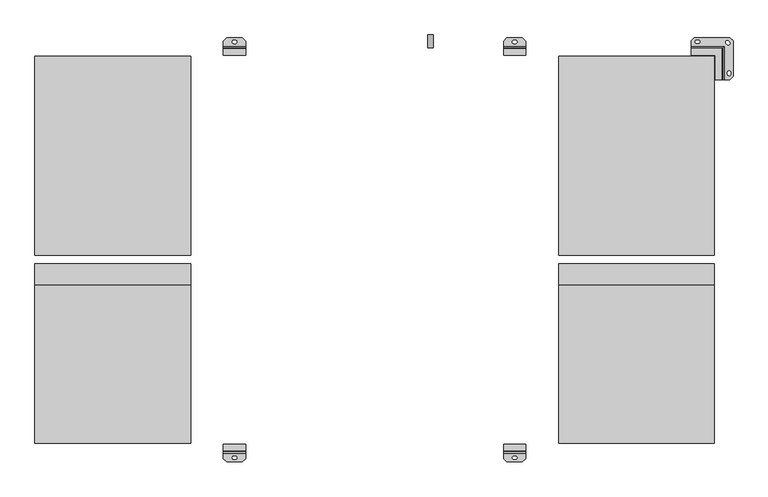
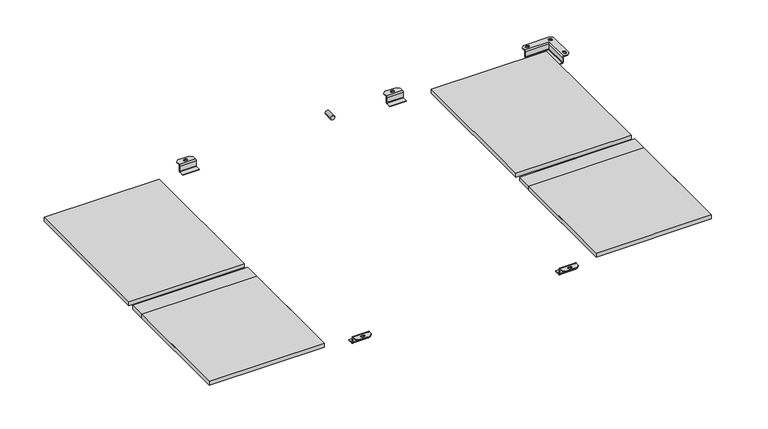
"""IFC4 building model written with IfcOpenShell, lengths in millimetres: proxy geometry, EMC_VEN_CLEVA 2.0_Right_V2 : CLEVA 3000 2.0 Right."""

from ifc_helpers import new_model, si_unit, point, frame, frame_2d, origin, origin_with_axes, place, context, project, spatial, polyline, circle_curve, ellipse_curve, trimmed, segment, composite_curve, outline, extrude, source, transform, mapped, element, save
from ifc_brep_helpers import plane_surface, cylinder_surface, revolved_surface, advanced_brep


def mechanical_equipment_862caaf2(model_context):
    return source(origin(), model_context, "Body", "SolidModel", [
        extrude(outline(polyline([(660.0, -694.0), (660.0, -127.0), (1219.0, -127.0), (1219.0, -694.0), (660.0, -694.0)])), origin_with_axes(), (0.0, 0.0, 1.0), 20.0),
        extrude(outline(polyline([(-660.0, -694.0), (-1219.0, -694.0), (-1219.0, -127.0), (-660.0, -127.0), (-660.0, -694.0)])), origin_with_axes(), (0.0, 0.0, 1.0), 20.0),
        extrude(outline(polyline([(660.0, 694.0), (1219.0, 694.0), (1219.0, -20.0), (660.0, -20.0), (660.0, 694.0)])), origin_with_axes(), (0.0, 0.0, 1.0), 20.0),
        extrude(outline(polyline([(-660.0, 694.0), (-660.0, -20.0), (-1219.0, -20.0), (-1219.0, 694.0), (-660.0, 694.0)])), origin_with_axes(), (0.0, 0.0, 1.0), 20.0),
        extrude(outline(polyline([(660.0, -694.0), (660.0, -50.0), (1219.0, -50.0), (1219.0, -694.0), (660.0, -694.0)])), origin_with_axes(), (0.0, 0.0, 1.0), 20.0),
        extrude(outline(polyline([(-660.0, -694.0), (-1219.0, -694.0), (-1219.0, -50.0), (-660.0, -50.0), (-660.0, -694.0)])), origin_with_axes(), (0.0, 0.0, 1.0), 20.0),
        extrude(outline(composite_curve([segment(trimmed(circle_curve(frame_2d((15.0, 200.0)), 10.0), [point((15.0, 210.0))], [point((15.0, 190.0))], False, "CARTESIAN"), True, "CONTINUOUS"), segment(trimmed(circle_curve(frame_2d((15.0, 200.0)), 10.0), [point((15.0, 190.0))], [point((15.0, 210.0))], False, "CARTESIAN"), True, "CONTINUOUS")], self_intersect=False)), frame((0.0, 725.0, 0.0), z_axis=(0.0, 1.0, 0.0), x_axis=(0.0, 0.0, 1.0)), (0.0, 0.0, 1.0), 46.0),
        advanced_brep(
        [(-542.4199372, 730.9879885, 32.4276212), (-542.4199372, 749.0000028, 32.4276212), (-542.4199372, 749.0000028, 29.4276272), (-542.4199372, 730.9939883, 29.4276272), (-542.4199372, 727.999994, 26.4336329), (-542.4199372, 727.999994, 2.850007), (-542.4199372, 721.9879811, -3.149981), (-542.4199372, 698.0023908, -3.149981), (-542.4199372, 698.0023908, -0.149987), (-542.4199372, 722.9960038, -0.149987), (-542.4199372, 725.0, 1.8540092), (-542.4199372, 725.0, 26.4156337), (-462.4199448, 730.9939883, 29.4276272), (-462.4199448, 749.0000028, 29.4276272), (-462.4199448, 749.0000028, 32.4276212), (-462.4199448, 730.9879885, 32.4276212), (-462.4199448, 725.0, 26.4156337), (-462.4199448, 725.0, 1.8540092), (-462.4199448, 722.9960038, -0.149987), (-462.4199448, 698.0023908, -0.149987), (-462.4199448, 698.0023908, -3.149981), (-462.4199448, 721.9879811, -3.149981), (-462.4199448, 727.9999806, 2.850007), (-462.4199448, 727.999994, 26.4336329), (-530.2699488, 761.1499912, 29.4276272), (-530.2699488, 761.1499912, 32.4276212), (-474.5699332, 761.1499912, 32.4276212), (-474.5699332, 761.1499912, 29.4276272), (-504.919936, 740.0000088, 32.4276212), (-504.9079365, 751.9999968, 32.4276212), (-499.9079465, 751.9999968, 32.4276212), (-499.919946, 740.0000088, 32.4276212), (-499.919946, 740.0000088, 29.4276272), (-499.9079465, 751.9999968, 29.4276272), (-504.9079365, 751.9999968, 29.4276272), (-504.919936, 740.0000088, 29.4276272)],
        [
            (0, 1),
            (1, 2),
            (2, 3),
            (3, 4, circle_curve(frame((-542.4199372, 730.999988, 26.4276332), z_axis=(1.0, 0.0, 0.0), x_axis=(0.0, -1.0, 0.0)), 3.0)),
            (4, 5),
            (5, 6, circle_curve(frame((-542.4199372, 721.9999806, 2.850007), z_axis=(-1.0, 0.0, 0.0), x_axis=(0.0, -1.0, 0.0)), 6.0)),
            (6, 7),
            (7, 8),
            (8, 9),
            (9, 10, circle_curve(frame((-542.4199372, 723.000004, 1.850009), z_axis=(1.0, 0.0, 0.0), x_axis=(0.0, -1.0, 0.0)), 2.0)),
            (10, 11),
            (11, 0, circle_curve(frame((-542.4199372, 730.999988, 26.4276332), z_axis=(-1.0, 0.0, 0.0), x_axis=(0.0, -1.0, 0.0)), 6.0)),
            (12, 13),
            (13, 14),
            (14, 15),
            (15, 16, circle_curve(frame((-462.4199448, 730.999988, 26.4276332), z_axis=(1.0, 0.0, 0.0), x_axis=(0.0, -1.0, 0.0)), 6.0)),
            (16, 17),
            (17, 18, circle_curve(frame((-462.4199448, 723.000004, 1.850009), z_axis=(-1.0, 0.0, 0.0), x_axis=(0.0, -1.0, 0.0)), 2.0)),
            (18, 19),
            (19, 20),
            (20, 21),
            (21, 22, circle_curve(frame((-462.4199448, 721.9999806, 2.850007), z_axis=(1.0, 0.0, 0.0), x_axis=(0.0, -1.0, 0.0)), 6.0)),
            (22, 23),
            (23, 12, circle_curve(frame((-462.4199448, 730.999988, 26.4276332), z_axis=(-1.0, 0.0, 0.0), x_axis=(0.0, -1.0, 0.0)), 3.0)),
            (24, 25),
            (25, 26),
            (26, 27),
            (27, 24),
            (14, 26),
            (25, 1),
            (0, 15),
            (28, 29, circle_curve(frame((-504.919936, 746.0000088, 32.4276212), z_axis=(0.0, 0.0, -1.0), x_axis=(1.0, 0.0, 0.0)), 6.0)),
            (29, 30),
            (30, 31, circle_curve(frame((-499.919946, 746.0000088, 32.4276212), z_axis=(0.0, 0.0, -1.0), x_axis=(1.0, 0.0, 0.0)), 6.0)),
            (31, 28),
            (11, 16),
            (10, 17),
            (9, 18),
            (8, 19),
            (7, 20),
            (6, 21),
            (5, 22),
            (4, 23),
            (3, 12),
            (2, 24),
            (27, 13),
            (32, 33, circle_curve(frame((-499.919946, 746.0000088, 29.4276272), z_axis=(0.0, 0.0, 1.0), x_axis=(1.0, 0.0, 0.0)), 6.0)),
            (33, 34),
            (34, 35, circle_curve(frame((-504.919936, 746.0000088, 29.4276272), z_axis=(0.0, 0.0, 1.0), x_axis=(1.0, 0.0, 0.0)), 6.0)),
            (35, 32),
            (35, 28),
            (31, 32),
            (34, 29),
            (33, 30),
        ],
        [
            plane_surface(frame((-542.4199372, 725.0, 0.0), z_axis=(-1.0, 0.0, 0.0), x_axis=(0.0, 0.0, 1.0))),
            plane_surface(frame((-462.4199448, 725.0, 0.0), z_axis=(1.0, 0.0, 0.0), x_axis=(0.0, 0.0, 1.0))),
            plane_surface(frame((-542.4199372, 761.1499912, 29.4276272), z_axis=(0.0, 1.0, 0.0), x_axis=(1.0, 0.0, 0.0))),
            plane_surface(frame((-542.4199372, 761.1499912, 32.4276212), z_axis=(0.0, 0.0, 1.0), x_axis=(1.0, 0.0, 0.0))),
            cylinder_surface(frame((-542.4199372, 730.999988, 26.4276332), z_axis=(-1.0, 0.0, 0.0), x_axis=(0.0, -1.0, 0.0)), 6.0),
            plane_surface(frame((-542.4199372, 725.0, 26.4156337), z_axis=(0.0, -1.0, 0.0), x_axis=(1.0, 0.0, 0.0))),
            revolved_surface(polyline([(-462.4199448, 721.000004, 1.850009), (-542.4199372, 721.000004, 1.850009)]), (-542.4199372, 723.000004, 1.850009), (1.0, 0.0, 0.0)),
            plane_surface(frame((-542.4199372, 722.9960038, -0.149987), z_axis=(0.0, 0.0, 1.0), x_axis=(1.0, 0.0, 0.0))),
            plane_surface(frame((-542.4199372, 698.0023908, -0.149987), z_axis=(0.0, -1.0, 0.0), x_axis=(1.0, 0.0, 0.0))),
            plane_surface(frame((-542.4199372, 698.0023908, -3.149981), z_axis=(0.0, 0.0, -1.0), x_axis=(1.0, 0.0, 0.0))),
            cylinder_surface(frame((-542.4199372, 721.9999806, 2.850007), z_axis=(-1.0, 0.0, 0.0), x_axis=(0.0, -1.0, 0.0)), 6.0),
            plane_surface(frame((-542.4199372, 727.999994, 2.850007), z_axis=(0.0, 1.0, 0.0), x_axis=(1.0, 0.0, 0.0))),
            revolved_surface(polyline([(-462.4199448, 727.999988, 26.4276332), (-542.4199372, 727.999988, 26.4276332)]), (-542.4199372, 730.999988, 26.4276332), (1.0, 0.0, 0.0)),
            plane_surface(frame((-542.4199372, 730.9939883, 29.4276272), z_axis=(0.0, 0.0, -1.0), x_axis=(1.0, 0.0, 0.0))),
            plane_surface(frame((-499.919946, 739.9999954, 250.0), z_axis=(0.0, 1.0, 0.0), x_axis=(0.0, 0.0, -1.0))),
            revolved_surface(polyline([(-498.919936, 746.0000088, 32.4276212), (-498.919936, 746.0000088, 29.4276272)]), (-504.919936, 746.0000088, 0.0), (0.0, 0.0, 1.0)),
            plane_surface(frame((-504.9079365, 751.9999968, 250.0), z_axis=(0.0, -1.0, 0.0), x_axis=(0.0, 0.0, -1.0))),
            revolved_surface(polyline([(-493.919946, 746.0000088, 32.4276212), (-493.919946, 746.0000088, 29.4276272)]), (-499.919946, 746.0000088, 0.0), (0.0, 0.0, 1.0)),
            plane_surface(frame((-530.2699488, 761.1499912, 250.0), z_axis=(-0.7071067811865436, 0.7071067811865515, 0.0), x_axis=(0.0, 0.0, -1.0))),
            plane_surface(frame((-456.4580002, 743.0380582, 250.0), z_axis=(0.7071067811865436, 0.7071067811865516, 0.0), x_axis=(0.0, 0.0, -1.0))),
        ],
        [
            (0, [[1, 2, 3, 4, 5, 6, 7, 8, 9, 10, 11, 12]]),
            (1, [[13, 14, 15, 16, 17, 18, 19, 20, 21, 22, 23, 24]]),
            (2, [[25, 26, 27, 28]]),
            (3, [[-15, 29, -26, 30, -1, 31], [32, 33, 34, 35]]),
            (4, [[36, -16, -31, -12]]),
            (5, [[37, -17, -36, -11]]),
            (6, [[38, -18, -37, -10]]),
            (7, [[39, -19, -38, -9]]),
            (8, [[40, -20, -39, -8]]),
            (9, [[41, -21, -40, -7]]),
            (10, [[42, -22, -41, -6]]),
            (11, [[43, -23, -42, -5]]),
            (12, [[44, -24, -43, -4]]),
            (13, [[-3, 45, -28, 46, -13, -44], [47, 48, 49, 50]]),
            (14, [[-50, 51, -35, 52]]),
            (15, [[-49, 53, -32, -51]]),
            (16, [[-48, 54, -33, -53]]),
            (17, [[-34, -54, -47, -52]]),
            (18, [[-30, -25, -45, -2]]),
            (19, [[-46, -27, -29, -14]]),
        ],
    ),
        advanced_brep(
        [(462.5800628, 730.9879885, 32.4276212), (462.5800628, 749.0000028, 32.4276212), (462.5800628, 749.0000028, 29.4276272), (462.5800628, 730.9939883, 29.4276272), (462.5800628, 727.999994, 26.4336329), (462.5800628, 727.999994, 2.850007), (462.5800628, 721.9879811, -3.149981), (462.5800628, 698.0023908, -3.149981), (462.5800628, 698.0023908, -0.149987), (462.5800628, 722.9960038, -0.149987), (462.5800628, 725.0, 1.8540092), (462.5800628, 725.0, 26.4156337), (542.5800552, 730.9939883, 29.4276272), (542.5800552, 749.0000028, 29.4276272), (542.5800552, 749.0000028, 32.4276212), (542.5800552, 730.9879885, 32.4276212), (542.5800552, 725.0, 26.4156337), (542.5800552, 725.0, 1.8540092), (542.5800552, 722.9960038, -0.149987), (542.5800552, 698.0023908, -0.149987), (542.5800552, 698.0023908, -3.149981), (542.5800552, 721.9879811, -3.149981), (542.5800552, 727.9999806, 2.850007), (542.5800552, 727.999994, 26.4336329), (474.7300512, 761.1499912, 29.4276272), (474.7300512, 761.1499912, 32.4276212), (530.4300668, 761.1499912, 32.4276212), (530.4300668, 761.1499912, 29.4276272), (500.080064, 740.0000088, 32.4276212), (500.0920635, 751.9999968, 32.4276212), (505.0920535, 751.9999968, 32.4276212), (505.080054, 740.0000088, 32.4276212), (505.080054, 740.0000088, 29.4276272), (505.0920535, 751.9999968, 29.4276272), (500.0920635, 751.9999968, 29.4276272), (500.080064, 740.0000088, 29.4276272)],
        [
            (0, 1),
            (1, 2),
            (2, 3),
            (3, 4, circle_curve(frame((462.5800628, 730.999988, 26.4276332), z_axis=(1.0, 0.0, 0.0), x_axis=(0.0, -1.0, 0.0)), 3.0)),
            (4, 5),
            (5, 6, circle_curve(frame((462.5800628, 721.9999806, 2.850007), z_axis=(-1.0, 0.0, 0.0), x_axis=(0.0, -1.0, 0.0)), 6.0)),
            (6, 7),
            (7, 8),
            (8, 9),
            (9, 10, circle_curve(frame((462.5800628, 723.000004, 1.850009), z_axis=(1.0, 0.0, 0.0), x_axis=(0.0, -1.0, 0.0)), 2.0)),
            (10, 11),
            (11, 0, circle_curve(frame((462.5800628, 730.999988, 26.4276332), z_axis=(-1.0, 0.0, 0.0), x_axis=(0.0, -1.0, 0.0)), 6.0)),
            (12, 13),
            (13, 14),
            (14, 15),
            (15, 16, circle_curve(frame((542.5800552, 730.999988, 26.4276332), z_axis=(1.0, 0.0, 0.0), x_axis=(0.0, -1.0, 0.0)), 6.0)),
            (16, 17),
            (17, 18, circle_curve(frame((542.5800552, 723.000004, 1.850009), z_axis=(-1.0, 0.0, 0.0), x_axis=(0.0, -1.0, 0.0)), 2.0)),
            (18, 19),
            (19, 20),
            (20, 21),
            (21, 22, circle_curve(frame((542.5800552, 721.9999806, 2.850007), z_axis=(1.0, 0.0, 0.0), x_axis=(0.0, -1.0, 0.0)), 6.0)),
            (22, 23),
            (23, 12, circle_curve(frame((542.5800552, 730.999988, 26.4276332), z_axis=(-1.0, 0.0, 0.0), x_axis=(0.0, -1.0, 0.0)), 3.0)),
            (24, 25),
            (25, 26),
            (26, 27),
            (27, 24),
            (14, 26),
            (25, 1),
            (0, 15),
            (28, 29, circle_curve(frame((500.080064, 746.0000088, 32.4276212), z_axis=(0.0, 0.0, -1.0), x_axis=(1.0, 0.0, 0.0)), 6.0)),
            (29, 30),
            (30, 31, circle_curve(frame((505.080054, 746.0000088, 32.4276212), z_axis=(0.0, 0.0, -1.0), x_axis=(1.0, 0.0, 0.0)), 6.0)),
            (31, 28),
            (11, 16),
            (10, 17),
            (9, 18),
            (8, 19),
            (7, 20),
            (6, 21),
            (5, 22),
            (4, 23),
            (3, 12),
            (2, 24),
            (27, 13),
            (32, 33, circle_curve(frame((505.080054, 746.0000088, 29.4276272), z_axis=(0.0, 0.0, 1.0), x_axis=(1.0, 0.0, 0.0)), 6.0)),
            (33, 34),
            (34, 35, circle_curve(frame((500.080064, 746.0000088, 29.4276272), z_axis=(0.0, 0.0, 1.0), x_axis=(1.0, 0.0, 0.0)), 6.0)),
            (35, 32),
            (35, 28),
            (31, 32),
            (34, 29),
            (33, 30),
        ],
        [
            plane_surface(frame((462.5800628, 725.0, 0.0), z_axis=(-1.0, 0.0, 0.0), x_axis=(0.0, 0.0, 1.0))),
            plane_surface(frame((542.5800552, 725.0, 0.0), z_axis=(1.0, 0.0, 0.0), x_axis=(0.0, 0.0, 1.0))),
            plane_surface(frame((462.5800628, 761.1499912, 29.4276272), z_axis=(0.0, 1.0, 0.0), x_axis=(1.0, 0.0, 0.0))),
            plane_surface(frame((462.5800628, 761.1499912, 32.4276212), z_axis=(0.0, 0.0, 1.0), x_axis=(1.0, 0.0, 0.0))),
            cylinder_surface(frame((462.5800628, 730.999988, 26.4276332), z_axis=(-1.0, 0.0, 0.0), x_axis=(0.0, -1.0, 0.0)), 6.0),
            plane_surface(frame((462.5800628, 725.0, 26.4156337), z_axis=(0.0, -1.0, 0.0), x_axis=(1.0, 0.0, 0.0))),
            revolved_surface(polyline([(542.5800552, 721.000004, 1.850009), (462.5800628, 721.000004, 1.850009)]), (462.5800628, 723.000004, 1.850009), (1.0, 0.0, 0.0)),
            plane_surface(frame((462.5800628, 722.9960038, -0.149987), z_axis=(0.0, 0.0, 1.0), x_axis=(1.0, 0.0, 0.0))),
            plane_surface(frame((462.5800628, 698.0023908, -0.149987), z_axis=(0.0, -1.0, 0.0), x_axis=(1.0, 0.0, 0.0))),
            plane_surface(frame((462.5800628, 698.0023908, -3.149981), z_axis=(0.0, 0.0, -1.0), x_axis=(1.0, 0.0, 0.0))),
            cylinder_surface(frame((462.5800628, 721.9999806, 2.850007), z_axis=(-1.0, 0.0, 0.0), x_axis=(0.0, -1.0, 0.0)), 6.0),
            plane_surface(frame((462.5800628, 727.999994, 2.850007), z_axis=(0.0, 1.0, 0.0), x_axis=(1.0, 0.0, 0.0))),
            revolved_surface(polyline([(542.5800552, 727.999988, 26.4276332), (462.5800628, 727.999988, 26.4276332)]), (462.5800628, 730.999988, 26.4276332), (1.0, 0.0, 0.0)),
            plane_surface(frame((462.5800628, 730.9939883, 29.4276272), z_axis=(0.0, 0.0, -1.0), x_axis=(1.0, 0.0, 0.0))),
            plane_surface(frame((505.080054, 739.9999954, 250.0), z_axis=(0.0, 1.0, 0.0), x_axis=(0.0, 0.0, -1.0))),
            revolved_surface(polyline([(506.080064, 746.0000088, 32.4276212), (506.080064, 746.0000088, 29.4276272)]), (500.080064, 746.0000088, 0.0), (0.0, 0.0, 1.0)),
            plane_surface(frame((500.0920635, 751.9999968, 250.0), z_axis=(0.0, -1.0, 0.0), x_axis=(0.0, 0.0, -1.0))),
            revolved_surface(polyline([(511.080054, 746.0000088, 32.4276212), (511.080054, 746.0000088, 29.4276272)]), (505.080054, 746.0000088, 0.0), (0.0, 0.0, 1.0)),
            plane_surface(frame((474.7300512, 761.1499912, 250.0), z_axis=(-0.7071067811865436, 0.7071067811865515, 0.0), x_axis=(0.0, 0.0, -1.0))),
            plane_surface(frame((548.5419998, 743.0380582, 250.0), z_axis=(0.7071067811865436, 0.7071067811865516, 0.0), x_axis=(0.0, 0.0, -1.0))),
        ],
        [
            (0, [[1, 2, 3, 4, 5, 6, 7, 8, 9, 10, 11, 12]]),
            (1, [[13, 14, 15, 16, 17, 18, 19, 20, 21, 22, 23, 24]]),
            (2, [[25, 26, 27, 28]]),
            (3, [[-15, 29, -26, 30, -1, 31], [32, 33, 34, 35]]),
            (4, [[36, -16, -31, -12]]),
            (5, [[37, -17, -36, -11]]),
            (6, [[38, -18, -37, -10]]),
            (7, [[39, -19, -38, -9]]),
            (8, [[40, -20, -39, -8]]),
            (9, [[41, -21, -40, -7]]),
            (10, [[42, -22, -41, -6]]),
            (11, [[43, -23, -42, -5]]),
            (12, [[44, -24, -43, -4]]),
            (13, [[-3, 45, -28, 46, -13, -44], [47, 48, 49, 50]]),
            (14, [[-50, 51, -35, 52]]),
            (15, [[-49, 53, -32, -51]]),
            (16, [[-48, 54, -33, -53]]),
            (17, [[-34, -54, -47, -52]]),
            (18, [[-30, -25, -45, -2]]),
            (19, [[-46, -27, -29, -14]]),
        ],
    ),
        advanced_brep(
        [(-542.4199372, -730.9879885, 32.4276212), (-542.4199372, -725.0, 26.4156337), (-542.4199372, -725.0, 1.8540092), (-542.4199372, -722.9960038, -0.149987), (-542.4199372, -698.0023908, -0.149987), (-542.4199372, -698.0023908, -3.149981), (-542.4199372, -721.9879811, -3.149981), (-542.4199372, -727.9999806, 2.850007), (-542.4199372, -727.999994, 26.4336329), (-542.4199372, -730.9939883, 29.4276272), (-542.4199372, -749.0000028, 29.4276272), (-542.4199372, -749.0000028, 32.4276212), (-462.4199448, -730.9939883, 29.4276272), (-462.4199448, -727.999994, 26.4336329), (-462.4199448, -727.999994, 2.850007), (-462.4199448, -721.9879811, -3.149981), (-462.4199448, -698.0023908, -3.149981), (-462.4199448, -698.0023908, -0.149987), (-462.4199448, -722.9960038, -0.149987), (-462.4199448, -725.0, 1.8540092), (-462.4199448, -725.0, 26.4156337), (-462.4199448, -730.9879885, 32.4276212), (-462.4199448, -749.0000028, 32.4276212), (-462.4199448, -749.0000028, 29.4276272), (-530.2699488, -761.1499912, 29.4276272), (-474.5699332, -761.1499912, 29.4276272), (-474.5699332, -761.1499912, 32.4276212), (-530.2699488, -761.1499912, 32.4276212), (-504.919936, -739.9999954, 32.4276212), (-499.919946, -739.9999954, 32.4276212), (-499.9079465, -751.9999968, 32.4276212), (-504.9079365, -751.9999968, 32.4276212), (-499.919946, -739.9999954, 29.4276272), (-504.919936, -739.9999954, 29.4276272), (-504.9079365, -751.9999968, 29.4276272), (-499.9079465, -751.9999968, 29.4276272)],
        [
            (0, 1, circle_curve(frame((-542.4199372, -730.999988, 26.4276332), z_axis=(-1.0, 0.0, 0.0), x_axis=(0.0, 1.0, 0.0)), 6.0)),
            (1, 2),
            (2, 3, circle_curve(frame((-542.4199372, -723.000004, 1.850009), z_axis=(1.0, 0.0, 0.0), x_axis=(0.0, 1.0, 0.0)), 2.0)),
            (3, 4),
            (4, 5),
            (5, 6),
            (6, 7, circle_curve(frame((-542.4199372, -721.9999806, 2.850007), z_axis=(-1.0, 0.0, 0.0), x_axis=(0.0, 1.0, 0.0)), 6.0)),
            (7, 8),
            (8, 9, circle_curve(frame((-542.4199372, -730.999988, 26.4276332), z_axis=(1.0, 0.0, 0.0), x_axis=(0.0, 1.0, 0.0)), 3.0)),
            (9, 10),
            (10, 11),
            (11, 0),
            (12, 13, circle_curve(frame((-462.4199448, -730.999988, 26.4276332), z_axis=(-1.0, 0.0, 0.0), x_axis=(0.0, 1.0, 0.0)), 3.0)),
            (13, 14),
            (14, 15, circle_curve(frame((-462.4199448, -721.9999806, 2.850007), z_axis=(1.0, 0.0, 0.0), x_axis=(0.0, 1.0, 0.0)), 6.0)),
            (15, 16),
            (16, 17),
            (17, 18),
            (18, 19, circle_curve(frame((-462.4199448, -723.000004, 1.850009), z_axis=(-1.0, 0.0, 0.0), x_axis=(0.0, 1.0, 0.0)), 2.0)),
            (19, 20),
            (20, 21, circle_curve(frame((-462.4199448, -730.999988, 26.4276332), z_axis=(1.0, 0.0, 0.0), x_axis=(0.0, 1.0, 0.0)), 6.0)),
            (21, 22),
            (22, 23),
            (23, 12),
            (24, 25),
            (25, 26),
            (26, 27),
            (27, 24),
            (21, 0),
            (11, 27),
            (26, 22),
            (28, 29),
            (29, 30, circle_curve(frame((-499.919946, -746.0000088, 32.4276212), z_axis=(0.0, 0.0, -1.0), x_axis=(1.0, 0.0, 0.0)), 6.0)),
            (30, 31),
            (31, 28, circle_curve(frame((-504.919936, -746.0000088, 32.4276212), z_axis=(0.0, 0.0, -1.0), x_axis=(1.0, 0.0, 0.0)), 6.0)),
            (20, 1),
            (19, 2),
            (18, 3),
            (17, 4),
            (16, 5),
            (15, 6),
            (14, 7),
            (13, 8),
            (12, 9),
            (23, 25),
            (24, 10),
            (32, 33),
            (33, 34, circle_curve(frame((-504.919936, -746.0000088, 29.4276272), z_axis=(0.0, 0.0, 1.0), x_axis=(1.0, 0.0, 0.0)), 6.0)),
            (34, 35),
            (35, 32, circle_curve(frame((-499.919946, -746.0000088, 29.4276272), z_axis=(0.0, 0.0, 1.0), x_axis=(1.0, 0.0, 0.0)), 6.0)),
            (32, 29),
            (28, 33),
            (31, 34),
            (30, 35),
        ],
        [
            plane_surface(frame((-542.4199372, -725.0, 0.0), z_axis=(-1.0, 0.0, 0.0), x_axis=(0.0, 0.0, 1.0))),
            plane_surface(frame((-462.4199448, -725.0, 0.0), z_axis=(1.0, 0.0, 0.0), x_axis=(0.0, 0.0, 1.0))),
            plane_surface(frame((-542.4199372, -761.1499912, 29.4276272), z_axis=(0.0, -1.0, 0.0), x_axis=(1.0, 0.0, 0.0))),
            plane_surface(frame((-542.4199372, -761.1499912, 32.4276212), z_axis=(0.0, 0.0, 1.0), x_axis=(1.0, 0.0, 0.0))),
            cylinder_surface(frame((-542.4199372, -730.999988, 26.4276332), z_axis=(-1.0, 0.0, 0.0), x_axis=(0.0, 1.0, 0.0)), 6.0),
            plane_surface(frame((-542.4199372, -725.0, 26.4156337), z_axis=(0.0, 1.0, 0.0), x_axis=(1.0, 0.0, 0.0))),
            revolved_surface(polyline([(-462.4199448, -721.000004, 1.850009), (-542.4199372, -721.000004, 1.850009)]), (-542.4199372, -723.000004, 1.850009), (1.0, 0.0, 0.0)),
            plane_surface(frame((-542.4199372, -722.9960038, -0.149987), z_axis=(0.0, 0.0, 1.0), x_axis=(1.0, 0.0, 0.0))),
            plane_surface(frame((-542.4199372, -698.0023908, -0.149987), z_axis=(0.0, 1.0, 0.0), x_axis=(1.0, 0.0, 0.0))),
            plane_surface(frame((-542.4199372, -698.0023908, -3.149981), z_axis=(0.0, 0.0, -1.0), x_axis=(1.0, 0.0, 0.0))),
            cylinder_surface(frame((-542.4199372, -721.9999806, 2.850007), z_axis=(-1.0, 0.0, 0.0), x_axis=(0.0, 1.0, 0.0)), 6.0),
            plane_surface(frame((-542.4199372, -727.999994, 2.850007), z_axis=(0.0, -1.0, 0.0), x_axis=(1.0, 0.0, 0.0))),
            revolved_surface(polyline([(-462.4199448, -727.999988, 26.4276332), (-542.4199372, -727.999988, 26.4276332)]), (-542.4199372, -730.999988, 26.4276332), (1.0, 0.0, 0.0)),
            plane_surface(frame((-542.4199372, -730.9939883, 29.4276272), z_axis=(0.0, 0.0, -1.0), x_axis=(1.0, 0.0, 0.0))),
            plane_surface(frame((-499.919946, -739.9999954, 250.0), z_axis=(0.0, -1.0, 0.0), x_axis=(0.0, 0.0, -1.0))),
            revolved_surface(polyline([(-498.919936, -746.0000088, 32.4276212), (-498.919936, -746.0000088, 29.4276272)]), (-504.919936, -746.0000088, 0.0), (0.0, 0.0, 1.0)),
            plane_surface(frame((-504.9079365, -751.9999968, 250.0), z_axis=(0.0, 1.0, 0.0), x_axis=(0.0, 0.0, -1.0))),
            revolved_surface(polyline([(-493.919946, -746.0000088, 32.4276212), (-493.919946, -746.0000088, 29.4276272)]), (-499.919946, -746.0000088, 0.0), (0.0, 0.0, 1.0)),
            plane_surface(frame((-530.2699488, -761.1499912, 250.0), z_axis=(-0.7071067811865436, -0.7071067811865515, 0.0), x_axis=(0.0, 0.0, -1.0))),
            plane_surface(frame((-456.4580002, -743.0380582, 250.0), z_axis=(0.7071067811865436, -0.7071067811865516, 0.0), x_axis=(0.0, 0.0, -1.0))),
        ],
        [
            (0, [[1, 2, 3, 4, 5, 6, 7, 8, 9, 10, 11, 12]]),
            (1, [[13, 14, 15, 16, 17, 18, 19, 20, 21, 22, 23, 24]]),
            (2, [[25, 26, 27, 28]]),
            (3, [[29, -12, 30, -27, 31, -22], [32, 33, 34, 35]]),
            (4, [[-1, -29, -21, 36]]),
            (5, [[-2, -36, -20, 37]]),
            (6, [[-3, -37, -19, 38]]),
            (7, [[-4, -38, -18, 39]]),
            (8, [[-5, -39, -17, 40]]),
            (9, [[-6, -40, -16, 41]]),
            (10, [[-7, -41, -15, 42]]),
            (11, [[-8, -42, -14, 43]]),
            (12, [[-9, -43, -13, 44]]),
            (13, [[-44, -24, 45, -25, 46, -10], [47, 48, 49, 50]]),
            (14, [[51, -32, 52, -47]]),
            (15, [[-52, -35, 53, -48]]),
            (16, [[-53, -34, 54, -49]]),
            (17, [[-51, -50, -54, -33]]),
            (18, [[-11, -46, -28, -30]]),
            (19, [[-23, -31, -26, -45]]),
        ],
    ),
        advanced_brep(
        [(462.5800628, -730.9879885, 32.4276212), (462.5800628, -725.0, 26.4156337), (462.5800628, -725.0, 1.8540092), (462.5800628, -722.9960038, -0.149987), (462.5800628, -698.0023908, -0.149987), (462.5800628, -698.0023908, -3.149981), (462.5800628, -721.9879811, -3.149981), (462.5800628, -727.9999806, 2.850007), (462.5800628, -727.999994, 26.4336329), (462.5800628, -730.9939883, 29.4276272), (462.5800628, -749.0000028, 29.4276272), (462.5800628, -749.0000028, 32.4276212), (542.5800552, -730.9939883, 29.4276272), (542.5800552, -727.999994, 26.4336329), (542.5800552, -727.999994, 2.850007), (542.5800552, -721.9879811, -3.149981), (542.5800552, -698.0023908, -3.149981), (542.5800552, -698.0023908, -0.149987), (542.5800552, -722.9960038, -0.149987), (542.5800552, -725.0, 1.8540092), (542.5800552, -725.0, 26.4156337), (542.5800552, -730.9879885, 32.4276212), (542.5800552, -749.0000028, 32.4276212), (542.5800552, -749.0000028, 29.4276272), (474.7300512, -761.1499912, 29.4276272), (530.4300668, -761.1499912, 29.4276272), (530.4300668, -761.1499912, 32.4276212), (474.7300512, -761.1499912, 32.4276212), (500.080064, -739.9999954, 32.4276212), (505.080054, -739.9999954, 32.4276212), (505.0920535, -751.9999968, 32.4276212), (500.0920635, -751.9999968, 32.4276212), (505.080054, -739.9999954, 29.4276272), (500.080064, -739.9999954, 29.4276272), (500.0920635, -751.9999968, 29.4276272), (505.0920535, -751.9999968, 29.4276272)],
        [
            (0, 1, circle_curve(frame((462.5800628, -730.999988, 26.4276332), z_axis=(-1.0, 0.0, 0.0), x_axis=(0.0, 1.0, 0.0)), 6.0)),
            (1, 2),
            (2, 3, circle_curve(frame((462.5800628, -723.000004, 1.850009), z_axis=(1.0, 0.0, 0.0), x_axis=(0.0, 1.0, 0.0)), 2.0)),
            (3, 4),
            (4, 5),
            (5, 6),
            (6, 7, circle_curve(frame((462.5800628, -721.9999806, 2.850007), z_axis=(-1.0, 0.0, 0.0), x_axis=(0.0, 1.0, 0.0)), 6.0)),
            (7, 8),
            (8, 9, circle_curve(frame((462.5800628, -730.999988, 26.4276332), z_axis=(1.0, 0.0, 0.0), x_axis=(0.0, 1.0, 0.0)), 3.0)),
            (9, 10),
            (10, 11),
            (11, 0),
            (12, 13, circle_curve(frame((542.5800552, -730.999988, 26.4276332), z_axis=(-1.0, 0.0, 0.0), x_axis=(0.0, 1.0, 0.0)), 3.0)),
            (13, 14),
            (14, 15, circle_curve(frame((542.5800552, -721.9999806, 2.850007), z_axis=(1.0, 0.0, 0.0), x_axis=(0.0, 1.0, 0.0)), 6.0)),
            (15, 16),
            (16, 17),
            (17, 18),
            (18, 19, circle_curve(frame((542.5800552, -723.000004, 1.850009), z_axis=(-1.0, 0.0, 0.0), x_axis=(0.0, 1.0, 0.0)), 2.0)),
            (19, 20),
            (20, 21, circle_curve(frame((542.5800552, -730.999988, 26.4276332), z_axis=(1.0, 0.0, 0.0), x_axis=(0.0, 1.0, 0.0)), 6.0)),
            (21, 22),
            (22, 23),
            (23, 12),
            (24, 25),
            (25, 26),
            (26, 27),
            (27, 24),
            (21, 0),
            (11, 27),
            (26, 22),
            (28, 29),
            (29, 30, circle_curve(frame((505.080054, -746.0000088, 32.4276212), z_axis=(0.0, 0.0, -1.0), x_axis=(1.0, 0.0, 0.0)), 6.0)),
            (30, 31),
            (31, 28, circle_curve(frame((500.080064, -746.0000088, 32.4276212), z_axis=(0.0, 0.0, -1.0), x_axis=(1.0, 0.0, 0.0)), 6.0)),
            (20, 1),
            (19, 2),
            (18, 3),
            (17, 4),
            (16, 5),
            (15, 6),
            (14, 7),
            (13, 8),
            (12, 9),
            (23, 25),
            (24, 10),
            (32, 33),
            (33, 34, circle_curve(frame((500.080064, -746.0000088, 29.4276272), z_axis=(0.0, 0.0, 1.0), x_axis=(1.0, 0.0, 0.0)), 6.0)),
            (34, 35),
            (35, 32, circle_curve(frame((505.080054, -746.0000088, 29.4276272), z_axis=(0.0, 0.0, 1.0), x_axis=(1.0, 0.0, 0.0)), 6.0)),
            (32, 29),
            (28, 33),
            (31, 34),
            (30, 35),
        ],
        [
            plane_surface(frame((462.5800628, -725.0, 0.0), z_axis=(-1.0, 0.0, 0.0), x_axis=(0.0, 0.0, 1.0))),
            plane_surface(frame((542.5800552, -725.0, 0.0), z_axis=(1.0, 0.0, 0.0), x_axis=(0.0, 0.0, 1.0))),
            plane_surface(frame((462.5800628, -761.1499912, 29.4276272), z_axis=(0.0, -1.0, 0.0), x_axis=(1.0, 0.0, 0.0))),
            plane_surface(frame((462.5800628, -761.1499912, 32.4276212), z_axis=(0.0, 0.0, 1.0), x_axis=(1.0, 0.0, 0.0))),
            cylinder_surface(frame((462.5800628, -730.999988, 26.4276332), z_axis=(-1.0, 0.0, 0.0), x_axis=(0.0, 1.0, 0.0)), 6.0),
            plane_surface(frame((462.5800628, -725.0, 26.4156337), z_axis=(0.0, 1.0, 0.0), x_axis=(1.0, 0.0, 0.0))),
            revolved_surface(polyline([(542.5800552, -721.000004, 1.850009), (462.5800628, -721.000004, 1.850009)]), (462.5800628, -723.000004, 1.850009), (1.0, 0.0, 0.0)),
            plane_surface(frame((462.5800628, -722.9960038, -0.149987), z_axis=(0.0, 0.0, 1.0), x_axis=(1.0, 0.0, 0.0))),
            plane_surface(frame((462.5800628, -698.0023908, -0.149987), z_axis=(0.0, 1.0, 0.0), x_axis=(1.0, 0.0, 0.0))),
            plane_surface(frame((462.5800628, -698.0023908, -3.149981), z_axis=(0.0, 0.0, -1.0), x_axis=(1.0, 0.0, 0.0))),
            cylinder_surface(frame((462.5800628, -721.9999806, 2.850007), z_axis=(-1.0, 0.0, 0.0), x_axis=(0.0, 1.0, 0.0)), 6.0),
            plane_surface(frame((462.5800628, -727.999994, 2.850007), z_axis=(0.0, -1.0, 0.0), x_axis=(1.0, 0.0, 0.0))),
            revolved_surface(polyline([(542.5800552, -727.999988, 26.4276332), (462.5800628, -727.999988, 26.4276332)]), (462.5800628, -730.999988, 26.4276332), (1.0, 0.0, 0.0)),
            plane_surface(frame((462.5800628, -730.9939883, 29.4276272), z_axis=(0.0, 0.0, -1.0), x_axis=(1.0, 0.0, 0.0))),
            plane_surface(frame((505.080054, -739.9999954, 250.0), z_axis=(0.0, -1.0, 0.0), x_axis=(0.0, 0.0, -1.0))),
            revolved_surface(polyline([(506.080064, -746.0000088, 32.4276212), (506.080064, -746.0000088, 29.4276272)]), (500.080064, -746.0000088, 0.0), (0.0, 0.0, 1.0)),
            plane_surface(frame((500.0920635, -751.9999968, 250.0), z_axis=(0.0, 1.0, 0.0), x_axis=(0.0, 0.0, -1.0))),
            revolved_surface(polyline([(511.080054, -746.0000088, 32.4276212), (511.080054, -746.0000088, 29.4276272)]), (505.080054, -746.0000088, 0.0), (0.0, 0.0, 1.0)),
            plane_surface(frame((474.7300512, -761.1499912, 250.0), z_axis=(-0.7071067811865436, -0.7071067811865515, 0.0), x_axis=(0.0, 0.0, -1.0))),
            plane_surface(frame((548.5419998, -743.0380582, 250.0), z_axis=(0.7071067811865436, -0.7071067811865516, 0.0), x_axis=(0.0, 0.0, -1.0))),
        ],
        [
            (0, [[1, 2, 3, 4, 5, 6, 7, 8, 9, 10, 11, 12]]),
            (1, [[13, 14, 15, 16, 17, 18, 19, 20, 21, 22, 23, 24]]),
            (2, [[25, 26, 27, 28]]),
            (3, [[29, -12, 30, -27, 31, -22], [32, 33, 34, 35]]),
            (4, [[-1, -29, -21, 36]]),
            (5, [[-2, -36, -20, 37]]),
            (6, [[-3, -37, -19, 38]]),
            (7, [[-4, -38, -18, 39]]),
            (8, [[-5, -39, -17, 40]]),
            (9, [[-6, -40, -16, 41]]),
            (10, [[-7, -41, -15, 42]]),
            (11, [[-8, -42, -14, 43]]),
            (12, [[-9, -43, -13, 44]]),
            (13, [[-44, -24, 45, -25, 46, -10], [47, 48, 49, 50]]),
            (14, [[51, -32, 52, -47]]),
            (15, [[-52, -35, 53, -48]]),
            (16, [[-53, -34, 54, -49]]),
            (17, [[-51, -50, -54, -33]]),
            (18, [[-11, -46, -28, -30]]),
            (19, [[-23, -31, -26, -45]]),
        ],
    ),
        advanced_brep(
        [(1255.9879885, 610.1499884, 32.4276212), (1250.0, 610.1499884, 26.4156337), (1250.0, 610.1499884, 1.8540092), (1247.9960038, 610.1499884, -0.149987), (1223.0023908, 610.1499884, -0.149987), (1223.0023908, 610.1499884, -3.149981), (1246.9879811, 610.1499884, -3.149981), (1252.9999806, 610.1499884, 2.850007), (1252.999994, 610.1499884, 26.4336329), (1255.9939883, 610.1499884, 29.4276272), (1274.1500152, 610.1499884, 29.4276272), (1274.1500152, 610.1499884, 32.4276212), (1286.1499912, 622.1499898, 29.4276272), (1286.1499912, 749.1499898, 29.4276272), (1286.1499912, 749.1499898, 32.4276212), (1286.1499912, 622.1499898, 32.4276212), (1135.1500138, 730.9879885, 32.4276212), (1255.9879885, 730.9879885, 32.4276212), (1274.1500152, 761.1499912, 32.4276212), (1147.1500152, 761.1499912, 32.4276212), (1135.1500138, 749.1499898, 32.4276212), (1160.6500136, 752.6499948, 32.4276212), (1160.6380141, 740.6500068, 32.4276212), (1155.6619977, 740.6500068, 32.4276212), (1155.6499982, 752.6499948, 32.4276212), (1269.8972231, 748.4322052, 32.4276212), (1273.4413867, 744.888067, 32.4276212), (1264.9515297, 736.4073661, 32.4276212), (1261.4119618, 739.9469136, 32.4276212), (1265.6500068, 635.6379887, 32.4276212), (1277.6499948, 635.6499882, 32.4276212), (1277.6500082, 630.6499982, 32.4276212), (1265.6500068, 630.6379987, 32.4276212), (1250.0, 725.0, 26.4156337), (1250.0, 725.0, 1.8540092), (1247.9960038, 722.9960038, -0.149987), (1135.1500138, 722.9960038, -0.149987), (1135.1500138, 698.0023908, -0.149987), (1223.0023908, 698.0023908, -0.149987), (1223.0023908, 698.0023908, -3.149981), (1135.1500138, 698.0023908, -3.149981), (1135.1500138, 721.9879811, -3.149981), (1246.9879811, 721.9879811, -3.149981), (1252.9999806, 727.9999806, 2.850007), (1252.999994, 727.999994, 26.4336329), (1255.9939883, 730.9939883, 29.4276272), (1135.1500138, 730.9939883, 29.4276272), (1135.1500138, 749.1499898, 29.4276272), (1147.1500152, 761.1499912, 29.4276272), (1274.1500152, 761.1499912, 29.4276272), (1160.6380141, 740.6500068, 29.4276272), (1160.6500136, 752.6499948, 29.4276272), (1155.6499982, 752.6500082, 29.4276272), (1155.6619977, 740.6500068, 29.4276272), (1273.4413867, 744.888067, 29.4276272), (1269.8972231, 748.4322052, 29.4276272), (1261.4119618, 739.9469136, 29.4276272), (1264.9515195, 736.4073559, 29.4276272), (1277.6499948, 635.6499882, 29.4276272), (1265.6500068, 635.6379887, 29.4276272), (1265.6500068, 630.6379987, 29.4276272), (1277.6499948, 630.6499982, 29.4276272), (1135.1500138, 725.0, 1.8540092), (1135.1500138, 725.0, 26.4156337), (1135.1500138, 727.999994, 26.4336329), (1135.1500138, 727.999994, 2.850007)],
        [
            (0, 1, circle_curve(frame((1255.999988, 610.1499884, 26.4276332), z_axis=(0.0, -1.0, 0.0), x_axis=(-1.0, 0.0, 0.0)), 6.0)),
            (1, 2),
            (2, 3, circle_curve(frame((1248.000004, 610.1499884, 1.850009), z_axis=(0.0, 1.0, 0.0), x_axis=(-1.0, 0.0, 0.0)), 2.0)),
            (3, 4),
            (4, 5),
            (5, 6),
            (6, 7, circle_curve(frame((1246.9999806, 610.1499884, 2.850007), z_axis=(0.0, -1.0, 0.0), x_axis=(-1.0, 0.0, 0.0)), 6.0)),
            (7, 8),
            (8, 9, circle_curve(frame((1255.999988, 610.1499884, 26.4276332), z_axis=(0.0, 1.0, 0.0), x_axis=(-1.0, 0.0, 0.0)), 3.0)),
            (9, 10),
            (10, 11),
            (11, 0),
            (12, 13),
            (13, 14),
            (14, 15),
            (15, 12),
            (16, 17),
            (17, 0),
            (11, 15),
            (14, 18),
            (18, 19),
            (19, 20),
            (20, 16),
            (21, 22, circle_curve(frame((1160.6500136, 746.6499948, 32.4276212), z_axis=(0.0, 0.0, -1.0), x_axis=(-1.0, 0.0, 0.0)), 6.0)),
            (22, 23),
            (23, 24, circle_curve(frame((1155.6499982, 746.6499948, 32.4276212), z_axis=(0.0, 0.0, -1.0), x_axis=(-1.0, 0.0, 0.0)), 6.0)),
            (24, 21),
            (25, 26),
            (26, 27, circle_curve(frame((1269.1941704, 740.6500068, 32.4276212), z_axis=(0.0, 0.0, -1.0), x_axis=(-1.0, 0.0, 0.0)), 6.0)),
            (27, 28),
            (28, 25, circle_curve(frame((1265.6500068, 744.194145, 32.4276212), z_axis=(0.0, 0.0, -1.0), x_axis=(-1.0, 0.0, 0.0)), 6.0)),
            (29, 30, circle_curve(frame((1271.6499948, 635.6499882, 32.4276212), z_axis=(0.0, 0.0, -1.0), x_axis=(-1.0, 0.0, 0.0)), 6.0)),
            (30, 31),
            (31, 32, circle_curve(frame((1271.6499948, 630.6499982, 32.4276212), z_axis=(0.0, 0.0, -1.0), x_axis=(-1.0, 0.0, 0.0)), 6.0)),
            (32, 29),
            (17, 33, ellipse_curve(frame((1255.999988, 730.999988, 26.4276332), z_axis=(0.7071067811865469, -0.707106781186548, 0.0), x_axis=(-0.7071067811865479, -0.7071067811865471, 0.0)), 8.4852814, 6.0)),
            (33, 1),
            (33, 34),
            (34, 2),
            (34, 35, ellipse_curve(frame((1248.000004, 723.000004, 1.850009), z_axis=(-0.7071067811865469, 0.707106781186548, 0.0), x_axis=(0.7071067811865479, 0.7071067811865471, 0.0)), 2.8284271, 2.0)),
            (35, 3),
            (35, 36),
            (36, 37),
            (37, 38),
            (38, 4),
            (38, 39),
            (39, 5),
            (39, 40),
            (40, 41),
            (41, 42),
            (42, 6),
            (42, 43, ellipse_curve(frame((1246.9999806, 721.9999806, 2.850007), z_axis=(0.7071067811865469, -0.707106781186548, 0.0), x_axis=(-0.7071067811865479, -0.7071067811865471, 0.0)), 8.4852814, 6.0)),
            (43, 7),
            (43, 44),
            (44, 8),
            (44, 45, ellipse_curve(frame((1255.999988, 730.999988, 26.4276332), z_axis=(-0.7071067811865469, 0.707106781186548, 0.0), x_axis=(0.7071067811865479, 0.7071067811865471, 0.0)), 4.2426407, 3.0)),
            (45, 9),
            (45, 46),
            (46, 47),
            (47, 48),
            (48, 49),
            (49, 13),
            (12, 10),
            (50, 51, circle_curve(frame((1160.6500136, 746.6499948, 29.4276272), z_axis=(0.0, 0.0, 1.0), x_axis=(-1.0, 0.0, 0.0)), 6.0)),
            (51, 52),
            (52, 53, circle_curve(frame((1155.6499982, 746.6499948, 29.4276272), z_axis=(0.0, 0.0, 1.0), x_axis=(-1.0, 0.0, 0.0)), 6.0)),
            (53, 50),
            (54, 55),
            (55, 56, circle_curve(frame((1265.6500068, 744.194145, 29.4276272), z_axis=(0.0, 0.0, 1.0), x_axis=(-1.0, 0.0, 0.0)), 6.0)),
            (56, 57),
            (57, 54, circle_curve(frame((1269.1941704, 740.6500068, 29.4276272), z_axis=(0.0, 0.0, 1.0), x_axis=(-1.0, 0.0, 0.0)), 6.0)),
            (58, 59, circle_curve(frame((1271.6499948, 635.6499882, 29.4276272), z_axis=(0.0, 0.0, 1.0), x_axis=(-1.0, 0.0, 0.0)), 6.0)),
            (59, 60),
            (60, 61, circle_curve(frame((1271.6499948, 630.6499982, 29.4276272), z_axis=(0.0, 0.0, 1.0), x_axis=(-1.0, 0.0, 0.0)), 6.0)),
            (61, 58),
            (36, 62, circle_curve(frame((1135.1500138, 723.000004, 1.850009), z_axis=(1.0, 0.0, 0.0), x_axis=(0.0, -1.0, 0.0)), 2.0)),
            (62, 63),
            (63, 16, circle_curve(frame((1135.1500138, 730.999988, 26.4276332), z_axis=(-1.0, 0.0, 0.0), x_axis=(0.0, -1.0, 0.0)), 6.0)),
            (20, 47),
            (46, 64, circle_curve(frame((1135.1500138, 730.999988, 26.4276332), z_axis=(1.0, 0.0, 0.0), x_axis=(0.0, -1.0, 0.0)), 3.0)),
            (64, 65),
            (65, 41, circle_curve(frame((1135.1500138, 721.9999806, 2.850007), z_axis=(-1.0, 0.0, 0.0), x_axis=(0.0, -1.0, 0.0)), 6.0)),
            (40, 37),
            (18, 49),
            (48, 19),
            (63, 33),
            (62, 34),
            (65, 43),
            (64, 44),
            (50, 22),
            (21, 51),
            (24, 52),
            (23, 53),
            (54, 26),
            (25, 55),
            (28, 56),
            (27, 57),
            (58, 30),
            (29, 59),
            (32, 60),
            (31, 61),
        ],
        [
            plane_surface(frame((1250.0, 610.1499884, 0.0), z_axis=(0.0, -1.0, 0.0), x_axis=(0.0, 0.0, 1.0))),
            plane_surface(frame((1286.1499912, 610.1499884, 29.4276272), z_axis=(1.0, 0.0, 0.0), x_axis=(0.0, 1.0, 0.0))),
            plane_surface(frame((1286.1499912, 610.1499884, 32.4276212), z_axis=(0.0, 0.0, 1.0), x_axis=(0.0, 1.0, 0.0))),
            cylinder_surface(frame((1255.999988, 610.1499884, 26.4276332), z_axis=(0.0, -1.0, 0.0), x_axis=(-1.0, 0.0, 0.0)), 6.0),
            plane_surface(frame((1250.0, 610.1499884, 26.4156337), z_axis=(-1.0, 0.0, 0.0), x_axis=(0.0, 1.0, 0.0))),
            revolved_surface(polyline([(1246.000004, 725.0000039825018, 1.850009), (1246.000004, 610.1499884, 1.850009)]), (1248.000004, 610.1499884, 1.850009), (0.0, 1.0, 0.0)),
            plane_surface(frame((1247.9960038, 610.1499884, -0.149987), z_axis=(0.0, 0.0, 1.0), x_axis=(0.0, 1.0, 0.0))),
            plane_surface(frame((1223.0023908, 610.1499884, -0.149987), z_axis=(-1.0, 0.0, 0.0), x_axis=(0.0, 1.0, 0.0))),
            plane_surface(frame((1223.0023908, 610.1499884, -3.149981), z_axis=(0.0, 0.0, -1.0), x_axis=(0.0, 1.0, 0.0))),
            cylinder_surface(frame((1246.9999806, 610.1499884, 2.850007), z_axis=(0.0, -1.0, 0.0), x_axis=(-1.0, 0.0, 0.0)), 6.0),
            plane_surface(frame((1252.999994, 610.1499884, 2.850007), z_axis=(1.0, 0.0, 0.0), x_axis=(0.0, 1.0, 0.0))),
            revolved_surface(polyline([(1252.999988, 733.999988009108, 26.4276332), (1252.999988, 610.1499884, 26.4276332)]), (1255.999988, 610.1499884, 26.4276332), (0.0, 1.0, 0.0)),
            plane_surface(frame((1255.9939883, 610.1499884, 29.4276272), z_axis=(0.0, 0.0, -1.0), x_axis=(0.0, 1.0, 0.0))),
            plane_surface(frame((1135.1500138, 725.0, 0.0), z_axis=(-1.0, 0.0, 0.0), x_axis=(0.0, 0.0, 1.0))),
            plane_surface(frame((1286.1499912, 761.1499912, 29.4276272), z_axis=(0.0, 1.0, 0.0), x_axis=(-1.0, 0.0, 0.0))),
            cylinder_surface(frame((1250.0, 730.999988, 26.4276332), z_axis=(1.0, 0.0, 0.0), x_axis=(0.0, -1.0, 0.0)), 6.0),
            plane_surface(frame((1250.0, 725.0, 26.4156337), z_axis=(0.0, -1.0, 0.0), x_axis=(-1.0, 0.0, 0.0))),
            revolved_surface(polyline([(1135.1500138, 721.000004, 1.850009), (1250.0000039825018, 721.000004, 1.850009)]), (1250.0, 723.000004, 1.850009), (-1.0, 0.0, 0.0)),
            plane_surface(frame((1223.0023908, 698.0023908, -0.149987), z_axis=(0.0, -1.0, 0.0), x_axis=(-1.0, 0.0, 0.0))),
            cylinder_surface(frame((1250.0, 721.9999806, 2.850007), z_axis=(1.0, 0.0, 0.0), x_axis=(0.0, -1.0, 0.0)), 6.0),
            plane_surface(frame((1252.999994, 727.999994, 2.850007), z_axis=(0.0, 1.0, 0.0), x_axis=(-1.0, 0.0, 0.0))),
            revolved_surface(polyline([(1135.1500138, 727.999988, 26.4276332), (1258.9999880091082, 727.999988, 26.4276332)]), (1250.0, 730.999988, 26.4276332), (-1.0, 0.0, 0.0)),
            plane_surface(frame((1286.1499912, 622.1499898, 250.0), z_axis=(0.7071075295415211, -0.7071060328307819, 0.0), x_axis=(0.0, 0.0, -1.0))),
            plane_surface(frame((1123.432152, 737.432128, 250.0), z_axis=(-0.7071067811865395, 0.7071067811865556, 0.0), x_axis=(0.0, 0.0, -1.0))),
            plane_surface(frame((1274.1500152, 761.1499912, 250.0), z_axis=(0.7071075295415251, 0.7071060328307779, 0.0), x_axis=(0.0, 0.0, -1.0))),
            revolved_surface(polyline([(1154.6500136, 746.6499948, 32.4276212), (1154.6500136, 746.6499948, 29.4276272)]), (1160.6500136, 746.6499948, 0.0), (0.0, 0.0, 1.0)),
            plane_surface(frame((1160.6500136, 752.6500082, 250.0), z_axis=(0.0, -1.0, 0.0), x_axis=(0.0, 0.0, -1.0))),
            revolved_surface(polyline([(1149.6499982, 746.6499948, 32.4276212), (1149.6499982, 746.6499948, 29.4276272)]), (1155.6499982, 746.6499948, 0.0), (0.0, 0.0, 1.0)),
            plane_surface(frame((1155.6619977, 740.6500068, 250.0), z_axis=(0.0, 1.0, 0.0), x_axis=(0.0, 0.0, -1.0))),
            plane_surface(frame((1273.4413867, 744.888067, 250.0), z_axis=(-0.7071042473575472, -0.7071093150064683, 0.0), x_axis=(0.0, 0.0, -1.0))),
            revolved_surface(polyline([(1259.6500068, 744.194145, 32.4276212), (1259.6500068, 744.194145, 29.4276272)]), (1265.6500068, 744.194145, 0.0), (0.0, 0.0, 1.0)),
            plane_surface(frame((1261.4119618, 739.9469136, 250.0), z_axis=(0.7071067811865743, 0.7071067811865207, 0.0), x_axis=(0.0, 0.0, -1.0))),
            revolved_surface(polyline([(1263.1941704, 740.6500068, 32.4276212), (1263.1941704, 740.6500068, 29.4276272)]), (1269.1941704, 740.6500068, 0.0), (0.0, 0.0, 1.0)),
            revolved_surface(polyline([(1265.6499948, 635.6499882, 32.4276212), (1265.6499948, 635.6499882, 29.4276272)]), (1271.6499948, 635.6499882, 0.0), (0.0, 0.0, 1.0)),
            plane_surface(frame((1265.6500068, 635.6379887, 250.0), z_axis=(1.0, 0.0, 0.0), x_axis=(0.0, 0.0, -1.0))),
            revolved_surface(polyline([(1265.6499948, 630.6499982, 32.4276212), (1265.6499948, 630.6499982, 29.4276272)]), (1271.6499948, 630.6499982, 0.0), (0.0, 0.0, 1.0)),
            plane_surface(frame((1277.6500082, 630.6499982, 250.0), z_axis=(-1.0, 0.0, 0.0), x_axis=(0.0, 0.0, -1.0))),
        ],
        [
            (0, [[1, 2, 3, 4, 5, 6, 7, 8, 9, 10, 11, 12]]),
            (1, [[13, 14, 15, 16]]),
            (2, [[17, 18, -12, 19, -15, 20, 21, 22, 23], [24, 25, 26, 27], [28, 29, 30, 31], [32, 33, 34, 35]]),
            (3, [[-1, -18, 36, 37]]),
            (4, [[-2, -37, 38, 39]]),
            (5, [[-3, -39, 40, 41]]),
            (6, [[-4, -41, 42, 43, 44, 45]]),
            (7, [[-5, -45, 46, 47]]),
            (8, [[-6, -47, 48, 49, 50, 51]]),
            (9, [[-7, -51, 52, 53]]),
            (10, [[-8, -53, 54, 55]]),
            (11, [[-9, -55, 56, 57]]),
            (12, [[-57, 58, 59, 60, 61, 62, -13, 63, -10], [64, 65, 66, 67], [68, 69, 70, 71], [72, 73, 74, 75]]),
            (13, [[-43, 76, 77, 78, -23, 79, -59, 80, 81, 82, -49, 83]]),
            (14, [[-21, 84, -61, 85]]),
            (15, [[-17, -78, 86, -36]]),
            (16, [[-38, -86, -77, 87]]),
            (17, [[-40, -87, -76, -42]]),
            (18, [[-44, -83, -48, -46]]),
            (19, [[-50, -82, 88, -52]]),
            (20, [[-54, -88, -81, 89]]),
            (21, [[-56, -89, -80, -58]]),
            (22, [[-11, -63, -16, -19]]),
            (23, [[-22, -85, -60, -79]]),
            (24, [[-14, -62, -84, -20]]),
            (25, [[90, -24, 91, -64]]),
            (26, [[-91, -27, 92, -65]]),
            (27, [[-92, -26, 93, -66]]),
            (28, [[-90, -67, -93, -25]]),
            (29, [[94, -28, 95, -68]]),
            (30, [[-95, -31, 96, -69]]),
            (31, [[-96, -30, 97, -70]]),
            (32, [[-94, -71, -97, -29]]),
            (33, [[98, -32, 99, -72]]),
            (34, [[-99, -35, 100, -73]]),
            (35, [[-100, -34, 101, -74]]),
            (36, [[-98, -75, -101, -33]]),
        ],
    ),
    ])


if __name__ == "__main__":
    model = new_model("IFC4")
    model_context = context("Model", 3, world=origin())
    ifc_project = project(units=[si_unit("LENGTHUNIT", "METRE", prefix="MILLI")], contexts=[model_context])
    site = spatial("IfcSite", under=ifc_project)
    building = spatial("IfcBuilding", under=site)
    placement = place(None, origin())
    mechanical_equipment_shape = mechanical_equipment_862caaf2(model_context)
    element("IfcBuildingElementProxy", 1, Name="EMC_VEN_CLEVA 2.0_Right_V2 : CLEVA 3000 2.0 Right", ObjectType="EMC_VEN_CLEVA 2.0_Right_V2 : CLEVA 3000 2.0 Right", at=placement, inside=building, context=model_context, shape_type="MappedRepresentation", body=[
        mapped(mechanical_equipment_shape, transform((0.0, 0.0, 0.0), x_axis=(1.0, 0.0, 0.0), y_axis=(0.0, 1.0, 0.0), z_axis=(0.0, 0.0, 1.0))),
    ])
    save(model, "model.ifc")
